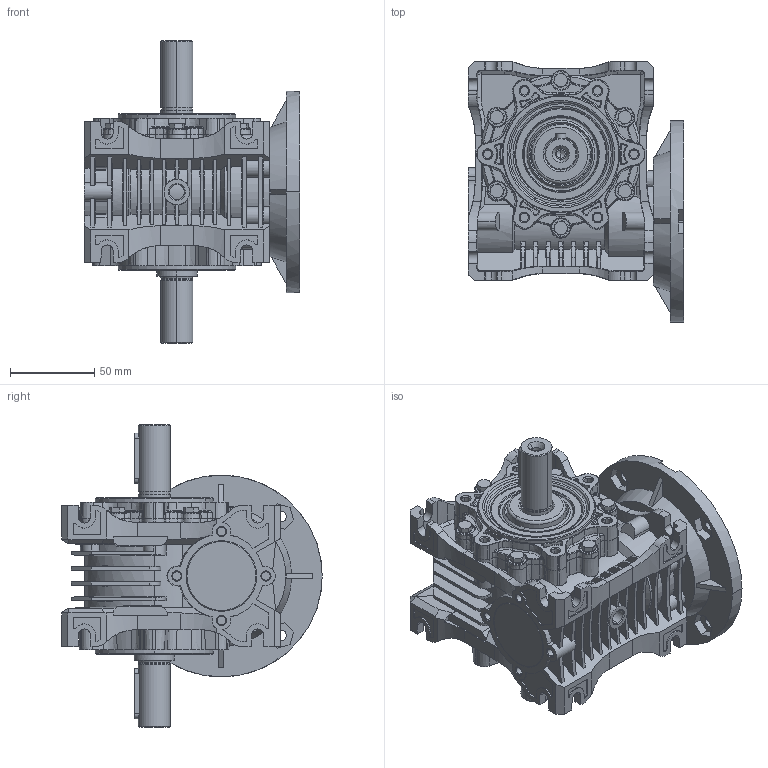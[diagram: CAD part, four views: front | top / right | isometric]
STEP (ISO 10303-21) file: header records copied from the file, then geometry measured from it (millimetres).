
FILE_DESCRIPTION (( 'STEP AP203' ), '1' );
FILE_NAME ('MR-40_120-9-WD-3D.STEP', '2023-11-27T10:32:13', ( '' ), ( '' ), 'SwSTEP 2.0', 'SolidWorks 2022', '' );
FILE_SCHEMA (( 'CONFIG_CONTROL_DESIGN' ));
Length unit declared in the file: millimetre
Products named in the file (1): MR-40_120-9-WD-3D
Bounding box: 128 x 155 x 180 mm (x, y, z)
Volume: 874467 mm3; surface area: 176694.9 mm2
Topology: 1 solids, 25 shells, 2807 faces, 7378 edges, 4670 vertices
Faces by surface type: plane 1066, cone 752, cylinder 569, torus 240, bspline 180
Entity records: 92823 total; most frequent: CARTESIAN_POINT 25283, ORIENTED_EDGE 14648, DIRECTION 13932, EDGE_CURVE 7324, AXIS2_PLACEMENT_3D 5321, VERTEX_POINT 4670, VECTOR 3290, LINE 3290
